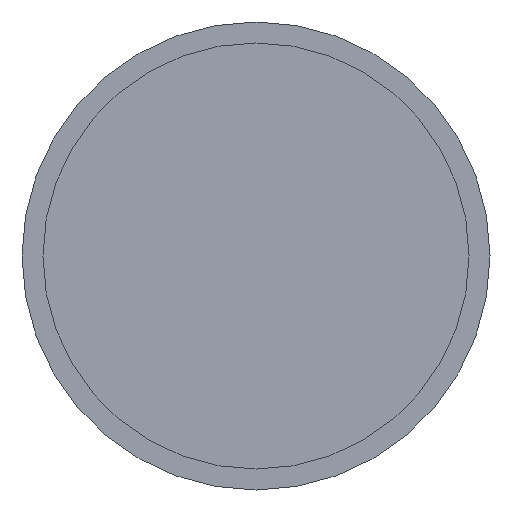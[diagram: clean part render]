
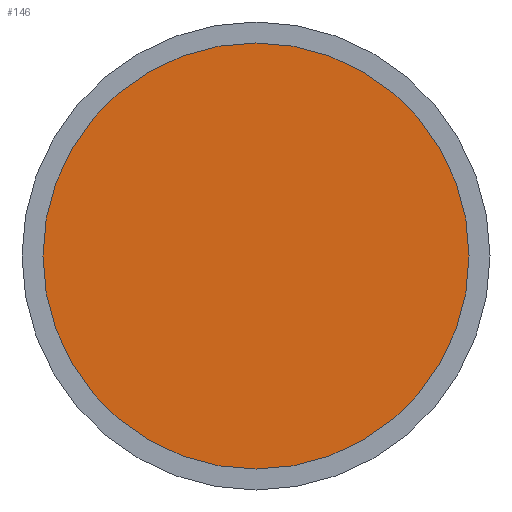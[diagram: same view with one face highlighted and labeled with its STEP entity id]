
A CAD part, front view. The second image highlights one B-rep face of the part: STEP entity #146.
In plain terms, the highlighted planar face has unit normal (0, -1, 0).
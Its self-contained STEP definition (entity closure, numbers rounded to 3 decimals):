
#9 = ORIENTED_EDGE ( 'NONE', *, *, #84, .F. ) ;
#13 = CARTESIAN_POINT ( 'NONE',  ( -29., 0., 0. ) ) ;
#14 = DIRECTION ( 'NONE',  ( 0., 1., 0. ) ) ;
#27 = DIRECTION ( 'NONE',  ( -1., 0., 0. ) ) ;
#33 = VERTEX_POINT ( 'NONE', #13 ) ;
#39 = AXIS2_PLACEMENT_3D ( 'NONE', #185, #214, #129 ) ;
#44 = FACE_OUTER_BOUND ( 'NONE', #113, .T. ) ;
#76 = PLANE ( 'NONE',  #177 ) ;
#84 = EDGE_CURVE ( 'NONE', #33, #33, #168, .T. ) ;
#96 = CARTESIAN_POINT ( 'NONE',  ( 29., 0., 0. ) ) ;
#113 = EDGE_LOOP ( 'NONE', ( #9 ) ) ;
#129 = DIRECTION ( 'NONE',  ( -1., 0., 0. ) ) ;
#146 = ADVANCED_FACE ( 'NONE', ( #44 ), #76, .F. ) ;
#168 = CIRCLE ( 'NONE', #39, 29. ) ;
#177 = AXIS2_PLACEMENT_3D ( 'NONE', #96, #14, #27 ) ;
#185 = CARTESIAN_POINT ( 'NONE',  ( 0., 0., 0. ) ) ;
#214 = DIRECTION ( 'NONE',  ( 0., 1., 0. ) ) ;
